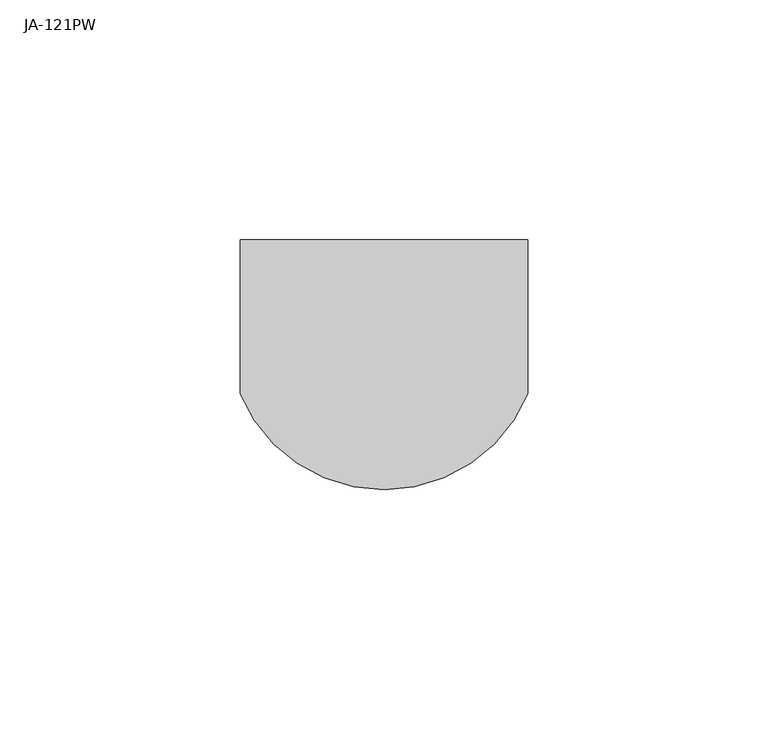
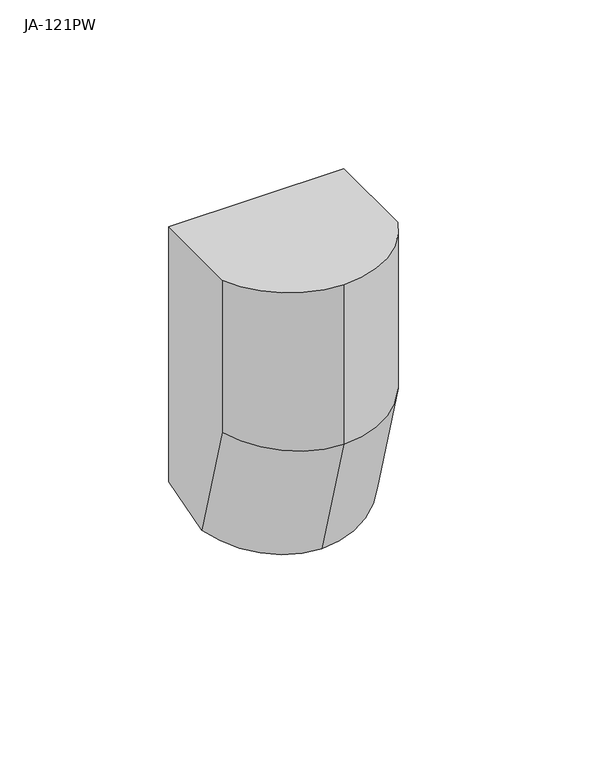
"""IFC4 building model written with IfcOpenShell, lengths in millimetres: proxy geometry, PIR detektory.CC : JA-121PW."""

from ifc_helpers import new_model, si_unit, frame, origin, place, context, project, spatial, circle_curve, ellipse_curve, source, transform, mapped, element, save
from ifc_brep_helpers import plane_surface, cylinder_surface, advanced_brep


def ja_121pw_7c5af470(model_context):
    return source(origin(), model_context, "Body", "AdvancedBrep", [
        advanced_brep(
        [(30.0, 0.0, 49.0), (-30.0, 0.0, 49.0), (-30.0, -32.0, 49.0), (0.0, -52.0, 49.0), (30.0, -32.0, 49.0), (30.0, 0.0, -43.3597331), (-30.0, 0.0, -43.3597331), (-30.0, -19.6699484, -49.0), (-30.0, -32.0, -6.0), (30.0, -32.0, -6.0), (30.0, -19.6699484, -49.0), (0.0, -38.8951823, -54.5127471), (0.0, -52.0, -8.8108167)],
        [
            (0, 1),
            (1, 2),
            (2, 3, circle_curve(frame((0.0, -19.5, 49.0), z_axis=(0.0, 0.0, 1.0), x_axis=(1.0, 0.0, 0.0)), 32.5)),
            (3, 4, circle_curve(frame((0.0, -19.5, 49.0), z_axis=(0.0, 0.0, 1.0), x_axis=(1.0, 0.0, 0.0)), 32.5)),
            (4, 0),
            (0, 5),
            (5, 6),
            (6, 1),
            (6, 7),
            (7, 8),
            (8, 2),
            (4, 9),
            (9, 10),
            (10, 5),
            (10, 11, circle_curve(frame((0.0, -7.6541772, -45.5545331), z_axis=(0.0, 0.27563735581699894, -0.961261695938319), x_axis=(1.0, 0.0, 0.0)), 32.5)),
            (11, 7, circle_curve(frame((0.0, -7.6541772, -45.5545331), z_axis=(0.0, 0.27563735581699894, -0.961261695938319), x_axis=(1.0, 0.0, 0.0)), 32.5)),
            (8, 12, ellipse_curve(frame((0.0, -19.5, -4.2432396), z_axis=(0.0, -0.13917310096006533, 0.9902680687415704), x_axis=(0.0, 0.9902680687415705, 0.1391731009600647)), 32.8193961, 32.5)),
            (12, 3),
            (12, 9, ellipse_curve(frame((0.0, -19.5, -4.2432396), z_axis=(0.0, -0.13917310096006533, 0.9902680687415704), x_axis=(0.0, 0.9902680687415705, 0.1391731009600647)), 32.8193961, 32.5)),
            (11, 12),
        ],
        [
            plane_surface(frame((0.0, -32.0, 49.0), z_axis=(0.0, 0.0, 1.0), x_axis=(1.0, 0.0, 0.0))),
            plane_surface(frame((30.0, 0.0, 49.0), z_axis=(0.0, 1.0, 0.0), x_axis=(0.0, 0.0, -1.0))),
            plane_surface(frame((-30.0, 0.0, 49.0), z_axis=(-1.0, 0.0, 0.0), x_axis=(0.0, 0.0, -1.0))),
            plane_surface(frame((30.0, -32.0, 49.0), z_axis=(1.0, 0.0, 0.0), x_axis=(0.0, 0.0, -1.0))),
            plane_surface(frame((0.0, -19.6699484, -49.0), z_axis=(0.0, 0.27563735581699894, -0.961261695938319), x_axis=(1.0, 0.0, 0.0))),
            cylinder_surface(frame((0.0, -19.5, 49.0), z_axis=(0.0, 0.0, 1.0), x_axis=(1.0, 0.0, 0.0)), 32.5),
            cylinder_surface(frame((0.0, -19.9842288, -2.5545331), z_axis=(0.0, -0.27563735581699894, 0.961261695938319), x_axis=(1.0, 0.0, 0.0)), 32.5),
        ],
        [
            (0, [[1, 2, 3, 4, 5]]),
            (1, [[-1, 6, 7, 8]]),
            (2, [[-2, -8, 9, 10, 11]]),
            (3, [[-6, -5, 12, 13, 14]]),
            (4, [[15, 16, -9, -7, -14]]),
            (5, [[-3, -11, 17, 18]]),
            (5, [[-4, -18, 19, -12]]),
            (6, [[-10, -16, 20, -17]]),
            (6, [[-13, -19, -20, -15]]),
        ],
    ),
    ])


if __name__ == "__main__":
    model = new_model("IFC4")
    model_context = context("Model", 3, world=origin())
    ifc_project = project(units=[si_unit("LENGTHUNIT", "METRE", prefix="MILLI")], contexts=[model_context])
    site = spatial("IfcSite", under=ifc_project)
    building = spatial("IfcBuilding", under=site)
    placement = place(None, origin())
    ja_121pw_shape = ja_121pw_7c5af470(model_context)
    element("IfcBuildingElementProxy", 1, Name="PIR detektory.CC : JA-121PW", ObjectType="PIR detektory.CC : JA-121PW", at=placement, inside=building, context=model_context, shape_type="MappedRepresentation", body=[
        mapped(ja_121pw_shape, transform((0.0, 0.0, 0.0), x_axis=(1.0, 0.0, 0.0), y_axis=(0.0, 1.0, 0.0), z_axis=(0.0, 0.0, 1.0))),
    ])
    save(model, "model.ifc")
